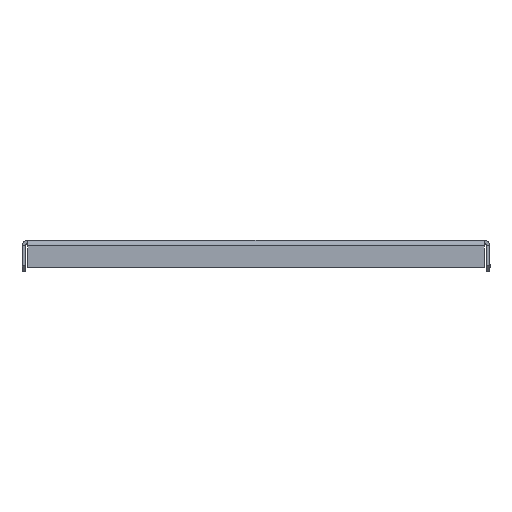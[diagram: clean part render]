
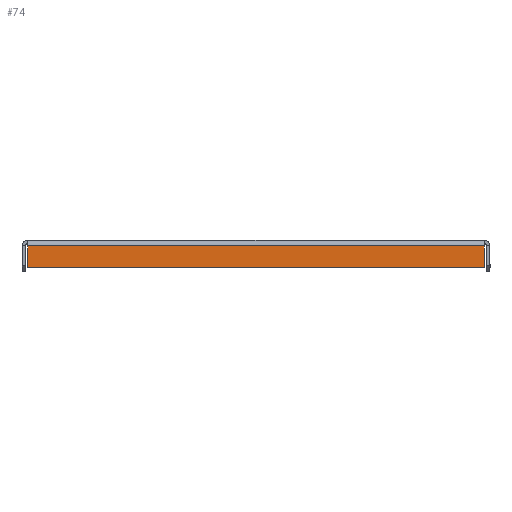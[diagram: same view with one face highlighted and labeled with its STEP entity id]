
A CAD part, front view. The second image highlights one B-rep face of the part: STEP entity #74.
In plain terms, the highlighted planar face has unit normal (0, -1, 0).
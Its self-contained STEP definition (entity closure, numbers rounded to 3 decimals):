
#74=ADVANCED_FACE('',(#932),#934,.T.);
#932=FACE_BOUND('',#933,.T.);
#933=EDGE_LOOP('',(#4289,#4290,#4291,#4292));
#934=PLANE('',#935);
#935=AXIS2_PLACEMENT_3D('',#936,#937,#938);
#936=CARTESIAN_POINT('',(0.,-248.5,0.));
#937=DIRECTION('',(0.,-1.,0.));
#938=DIRECTION('',(0.,0.,-1.));
#4289=ORIENTED_EDGE('',*,*,#6511,.F.);
#4290=ORIENTED_EDGE('',*,*,#6505,.T.);
#4291=ORIENTED_EDGE('',*,*,#6507,.F.);
#4292=ORIENTED_EDGE('',*,*,#6513,.F.);
#6505=EDGE_CURVE('',#8304,#8311,#8315,.T.);
#6507=EDGE_CURVE('',#8317,#8311,#8318,.T.);
#6511=EDGE_CURVE('',#8304,#8324,#8325,.T.);
#6513=EDGE_CURVE('',#8324,#8317,#8327,.T.);
#8304=VERTEX_POINT('',#11566);
#8311=VERTEX_POINT('',#11586);
#8315=LINE('',#11597,#11598);
#8317=VERTEX_POINT('',#11603);
#8318=LINE('',#11604,#11605);
#8324=VERTEX_POINT('',#11618);
#8325=LINE('',#11619,#11620);
#8327=LINE('',#11625,#11626);
#11566=CARTESIAN_POINT('',(139.1,-248.5,-3.4));
#11586=CARTESIAN_POINT('',(-139.1,-248.5,-3.4));
#11597=CARTESIAN_POINT('',(139.1,-248.5,-3.4));
#11598=VECTOR('',#11599,1.);
#11599=DIRECTION('',(-1.,0.,0.));
#11603=CARTESIAN_POINT('',(-139.1,-248.5,-16.4));
#11604=CARTESIAN_POINT('',(-139.1,-248.5,-16.4));
#11605=VECTOR('',#11606,1.);
#11606=DIRECTION('',(0.,0.,1.));
#11618=CARTESIAN_POINT('',(139.1,-248.5,-16.4));
#11619=CARTESIAN_POINT('',(139.1,-248.5,-3.4));
#11620=VECTOR('',#11621,1.);
#11621=DIRECTION('',(0.,0.,-1.));
#11625=CARTESIAN_POINT('',(139.1,-248.5,-16.4));
#11626=VECTOR('',#11627,1.);
#11627=DIRECTION('',(-1.,0.,0.));
